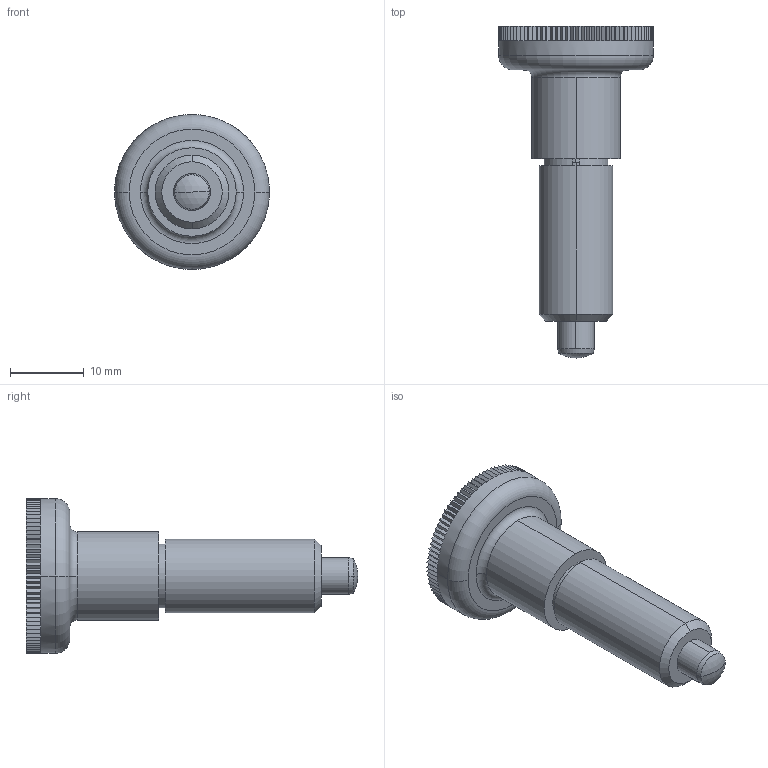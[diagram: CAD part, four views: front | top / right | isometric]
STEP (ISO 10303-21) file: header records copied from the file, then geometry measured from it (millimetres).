
FILE_DESCRIPTION (( 'STEP AP203' ), '1' );
FILE_NAME ('32742.W0705.step', '2011-04-26T13:36:44', ( 'Wixroyd' ), ( 'Wixroyd' ), 'SwSTEP 2.0', 'SolidWorks 2009', '' );
FILE_SCHEMA (( 'CONFIG_CONTROL_DESIGN' ));
Length unit declared in the file: millimetre
Products named in the file (5): Part3_3274.W445; 32742.W0705; Part1_3274.W445; Part4_3274.W445; Part2_3274.W445
Assembly tree (4 placements, depth 2):
  32742.W0705
    Part1_3274.W445
    Part3_3274.W445
    Part4_3274.W445
    Part2_3274.W445
Bounding box: 21 x 45 x 21 mm (x, y, z)
Volume: 4593 mm3; surface area: 3613.1 mm2
Topology: 4 solids, 4 shells, 414 faces, 1002 edges, 604 vertices
Faces by surface type: plane 368, cylinder 30, cone 8, torus 4, sphere 4
Entity records: 12329 total; most frequent: DIRECTION 2072, CARTESIAN_POINT 2027, ORIENTED_EDGE 2004, EDGE_CURVE 1002, VECTOR 774, LINE 774, AXIS2_PLACEMENT_3D 649, VERTEX_POINT 604
